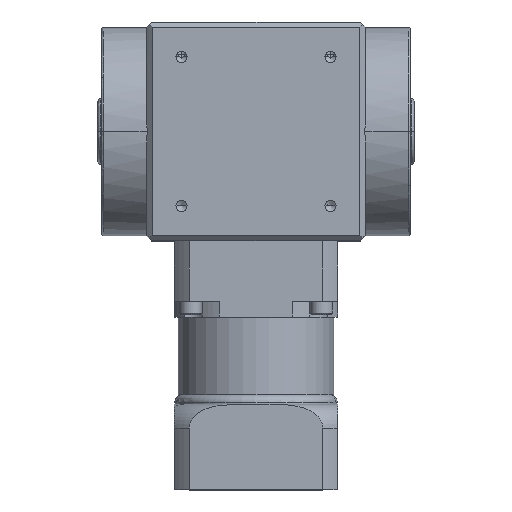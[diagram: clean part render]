
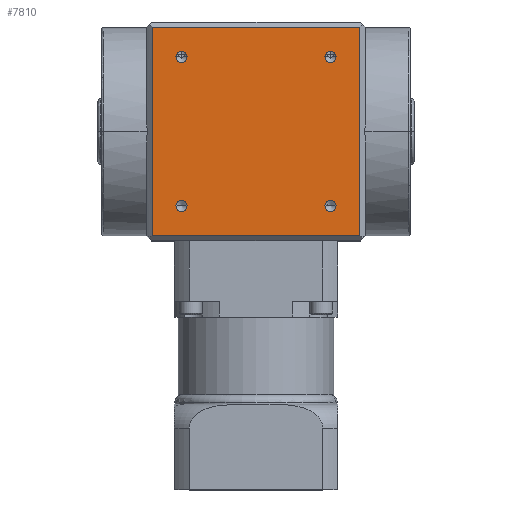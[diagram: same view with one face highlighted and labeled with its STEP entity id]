
A CAD part, top view. The second image highlights one B-rep face of the part: STEP entity #7810.
In plain terms, the highlighted planar face has unit normal (0, 0, 1).
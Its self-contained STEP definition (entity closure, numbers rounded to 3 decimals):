
#36 = CARTESIAN_POINT ( 'NONE',  ( 39.292, 175.2, 41.5 ) ) ;
#94 = DIRECTION ( 'NONE',  ( 0., -1., 0. ) ) ;
#97 = DIRECTION ( 'NONE',  ( 0., 0., 1. ) ) ;
#114 = CARTESIAN_POINT ( 'NONE',  ( 28.284, 107.416, 41.5 ) ) ;
#844 = EDGE_LOOP ( 'NONE', ( #1791, #2089 ) ) ;
#1425 = DIRECTION ( 'NONE',  ( 0., 0., -1. ) ) ;
#1511 = CARTESIAN_POINT ( 'NONE',  ( -41.5, 96.2, 41.5 ) ) ;
#1559 = ORIENTED_EDGE ( 'NONE', *, *, #6286, .T. ) ;
#1791 = ORIENTED_EDGE ( 'NONE', *, *, #9748, .T. ) ;
#1996 = VERTEX_POINT ( 'NONE', #10215 ) ;
#2089 = ORIENTED_EDGE ( 'NONE', *, *, #6335, .T. ) ;
#2435 = VECTOR ( 'NONE', #11913, 1000. ) ;
#2467 = LINE ( 'NONE', #1511, #2435 ) ;
#2504 = EDGE_CURVE ( 'NONE', #8321, #1996, #10146, .T. ) ;
#2561 = CIRCLE ( 'NONE', #3484, 2.1 ) ;
#2952 = VERTEX_POINT ( 'NONE', #11415 ) ;
#3059 = VERTEX_POINT ( 'NONE', #8651 ) ;
#3484 = AXIS2_PLACEMENT_3D ( 'NONE', #10028, #1425, #11484 ) ;
#3707 = EDGE_CURVE ( 'NONE', #7758, #7626, #5603, .T. ) ;
#3726 = VERTEX_POINT ( 'NONE', #36 ) ;
#4101 = EDGE_CURVE ( 'NONE', #7626, #7758, #4722, .T. ) ;
#4127 = EDGE_CURVE ( 'NONE', #1996, #8321, #4483, .T. ) ;
#4128 = AXIS2_PLACEMENT_3D ( 'NONE', #15273, #15249, #15202 ) ;
#4129 = ORIENTED_EDGE ( 'NONE', *, *, #4101, .F. ) ;
#4154 = CARTESIAN_POINT ( 'NONE',  ( -28.284, 161.884, 41.5 ) ) ;
#4377 = AXIS2_PLACEMENT_3D ( 'NONE', #14691, #14675, #14646 ) ;
#4483 = CIRCLE ( 'NONE', #4377, 2.1 ) ;
#4722 = CIRCLE ( 'NONE', #4128, 2.1 ) ;
#4730 = EDGE_CURVE ( 'NONE', #2952, #7402, #2467, .T. ) ;
#4904 = CARTESIAN_POINT ( 'NONE',  ( -28.284, 109.516, 41.5 ) ) ;
#5603 = CIRCLE ( 'NONE', #6264, 2.1 ) ;
#6131 = EDGE_CURVE ( 'NONE', #7402, #10658, #15594, .T. ) ;
#6240 = EDGE_CURVE ( 'NONE', #3726, #2952, #15290, .T. ) ;
#6263 = EDGE_CURVE ( 'NONE', #10658, #3726, #15230, .T. ) ;
#6264 = AXIS2_PLACEMENT_3D ( 'NONE', #114, #97, #94 ) ;
#6286 = EDGE_CURVE ( 'NONE', #9451, #3059, #14867, .T. ) ;
#6293 = AXIS2_PLACEMENT_3D ( 'NONE', #16006, #15950, #16058 ) ;
#6335 = EDGE_CURVE ( 'NONE', #13281, #11747, #14718, .T. ) ;
#6755 = AXIS2_PLACEMENT_3D ( 'NONE', #16886, #16718, #16818 ) ;
#6855 = DIRECTION ( 'NONE',  ( 0., 0., -1. ) ) ;
#7402 = VERTEX_POINT ( 'NONE', #14852 ) ;
#7626 = VERTEX_POINT ( 'NONE', #12437 ) ;
#7737 = ORIENTED_EDGE ( 'NONE', *, *, #4730, .F. ) ;
#7758 = VERTEX_POINT ( 'NONE', #10863 ) ;
#7810 = ADVANCED_FACE ( 'NONE', ( #9413, #9465, #9486, #9429, #9390 ), #10127, .F. ) ;
#8321 = VERTEX_POINT ( 'NONE', #4904 ) ;
#8366 = EDGE_LOOP ( 'NONE', ( #4129, #9035 ) ) ;
#8651 = CARTESIAN_POINT ( 'NONE',  ( 28.284, 161.884, 41.5 ) ) ;
#8949 = ORIENTED_EDGE ( 'NONE', *, *, #2504, .F. ) ;
#9035 = ORIENTED_EDGE ( 'NONE', *, *, #3707, .F. ) ;
#9364 = EDGE_LOOP ( 'NONE', ( #7737, #17934, #17199, #16439 ) ) ;
#9390 = FACE_BOUND ( 'NONE', #844, .T. ) ;
#9413 = FACE_OUTER_BOUND ( 'NONE', #9364, .T. ) ;
#9429 = FACE_BOUND ( 'NONE', #11444, .T. ) ;
#9451 = VERTEX_POINT ( 'NONE', #12214 ) ;
#9465 = FACE_BOUND ( 'NONE', #13161, .T. ) ;
#9486 = FACE_BOUND ( 'NONE', #8366, .T. ) ;
#9557 = DIRECTION ( 'NONE',  ( 0., 1., 0. ) ) ;
#9573 = DIRECTION ( 'NONE',  ( 0., 0., -1. ) ) ;
#9576 = CARTESIAN_POINT ( 'NONE',  ( -41.5, 177.2, 41.5 ) ) ;
#9748 = EDGE_CURVE ( 'NONE', #11747, #13281, #2561, .T. ) ;
#10028 = CARTESIAN_POINT ( 'NONE',  ( -28.284, 163.984, 41.5 ) ) ;
#10127 = PLANE ( 'NONE',  #15885 ) ;
#10146 = CIRCLE ( 'NONE', #17584, 2.1 ) ;
#10158 = DIRECTION ( 'NONE',  ( 0., 1., 0. ) ) ;
#10215 = CARTESIAN_POINT ( 'NONE',  ( -28.284, 105.316, 41.5 ) ) ;
#10402 = CARTESIAN_POINT ( 'NONE',  ( -39.292, 177.2, 41.5 ) ) ;
#10658 = VERTEX_POINT ( 'NONE', #15043 ) ;
#10863 = CARTESIAN_POINT ( 'NONE',  ( 28.284, 109.516, 41.5 ) ) ;
#11258 = DIRECTION ( 'NONE',  ( 0., -1., 0. ) ) ;
#11415 = CARTESIAN_POINT ( 'NONE',  ( 39.292, 96.2, 41.5 ) ) ;
#11444 = EDGE_LOOP ( 'NONE', ( #11787, #1559 ) ) ;
#11484 = DIRECTION ( 'NONE',  ( 0., -1., 0. ) ) ;
#11747 = VERTEX_POINT ( 'NONE', #4154 ) ;
#11787 = ORIENTED_EDGE ( 'NONE', *, *, #16353, .T. ) ;
#11913 = DIRECTION ( 'NONE',  ( -1., 0., 0. ) ) ;
#12214 = CARTESIAN_POINT ( 'NONE',  ( 28.284, 166.084, 41.5 ) ) ;
#12224 = CIRCLE ( 'NONE', #14877, 2.1 ) ;
#12437 = CARTESIAN_POINT ( 'NONE',  ( 28.284, 105.316, 41.5 ) ) ;
#13161 = EDGE_LOOP ( 'NONE', ( #14702, #8949 ) ) ;
#13281 = VERTEX_POINT ( 'NONE', #14052 ) ;
#14052 = CARTESIAN_POINT ( 'NONE',  ( -28.284, 166.084, 41.5 ) ) ;
#14646 = DIRECTION ( 'NONE',  ( 0., -1., 0. ) ) ;
#14675 = DIRECTION ( 'NONE',  ( 0., 0., 1. ) ) ;
#14691 = CARTESIAN_POINT ( 'NONE',  ( -28.284, 107.416, 41.5 ) ) ;
#14702 = ORIENTED_EDGE ( 'NONE', *, *, #4127, .F. ) ;
#14718 = CIRCLE ( 'NONE', #6293, 2.1 ) ;
#14852 = CARTESIAN_POINT ( 'NONE',  ( -39.292, 96.2, 41.5 ) ) ;
#14867 = CIRCLE ( 'NONE', #6755, 2.1 ) ;
#14877 = AXIS2_PLACEMENT_3D ( 'NONE', #15546, #6855, #17020 ) ;
#15043 = CARTESIAN_POINT ( 'NONE',  ( -39.292, 175.2, 41.5 ) ) ;
#15192 = VECTOR ( 'NONE', #18138, 1000. ) ;
#15202 = DIRECTION ( 'NONE',  ( 0., -1., 0. ) ) ;
#15230 = LINE ( 'NONE', #18767, #15192 ) ;
#15249 = DIRECTION ( 'NONE',  ( 0., 0., 1. ) ) ;
#15273 = CARTESIAN_POINT ( 'NONE',  ( 28.284, 107.416, 41.5 ) ) ;
#15284 = VECTOR ( 'NONE', #11258, 1000. ) ;
#15290 = LINE ( 'NONE', #18787, #15284 ) ;
#15546 = CARTESIAN_POINT ( 'NONE',  ( 28.284, 163.984, 41.5 ) ) ;
#15557 = VECTOR ( 'NONE', #10158, 1000. ) ;
#15594 = LINE ( 'NONE', #10402, #15557 ) ;
#15885 = AXIS2_PLACEMENT_3D ( 'NONE', #9576, #9573, #9557 ) ;
#15950 = DIRECTION ( 'NONE',  ( 0., 0., -1. ) ) ;
#16006 = CARTESIAN_POINT ( 'NONE',  ( -28.284, 163.984, 41.5 ) ) ;
#16058 = DIRECTION ( 'NONE',  ( 0., -1., 0. ) ) ;
#16260 = DIRECTION ( 'NONE',  ( 0., -1., 0. ) ) ;
#16319 = DIRECTION ( 'NONE',  ( 0., 0., 1. ) ) ;
#16353 = EDGE_CURVE ( 'NONE', #3059, #9451, #12224, .T. ) ;
#16378 = CARTESIAN_POINT ( 'NONE',  ( -28.284, 107.416, 41.5 ) ) ;
#16439 = ORIENTED_EDGE ( 'NONE', *, *, #6131, .F. ) ;
#16718 = DIRECTION ( 'NONE',  ( 0., 0., -1. ) ) ;
#16818 = DIRECTION ( 'NONE',  ( 0., -1., 0. ) ) ;
#16886 = CARTESIAN_POINT ( 'NONE',  ( 28.284, 163.984, 41.5 ) ) ;
#17020 = DIRECTION ( 'NONE',  ( 0., -1., 0. ) ) ;
#17199 = ORIENTED_EDGE ( 'NONE', *, *, #6263, .F. ) ;
#17584 = AXIS2_PLACEMENT_3D ( 'NONE', #16378, #16319, #16260 ) ;
#17934 = ORIENTED_EDGE ( 'NONE', *, *, #6240, .F. ) ;
#18138 = DIRECTION ( 'NONE',  ( 1., 0., 0. ) ) ;
#18767 = CARTESIAN_POINT ( 'NONE',  ( 0., 175.2, 41.5 ) ) ;
#18787 = CARTESIAN_POINT ( 'NONE',  ( 39.292, 0., 41.5 ) ) ;
